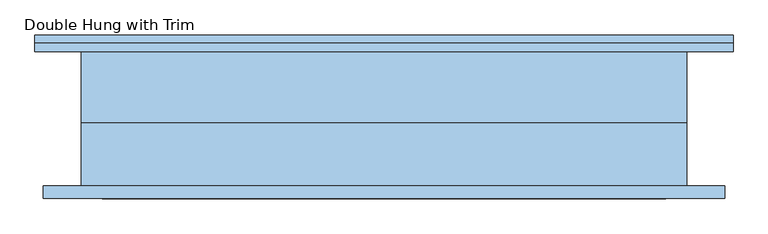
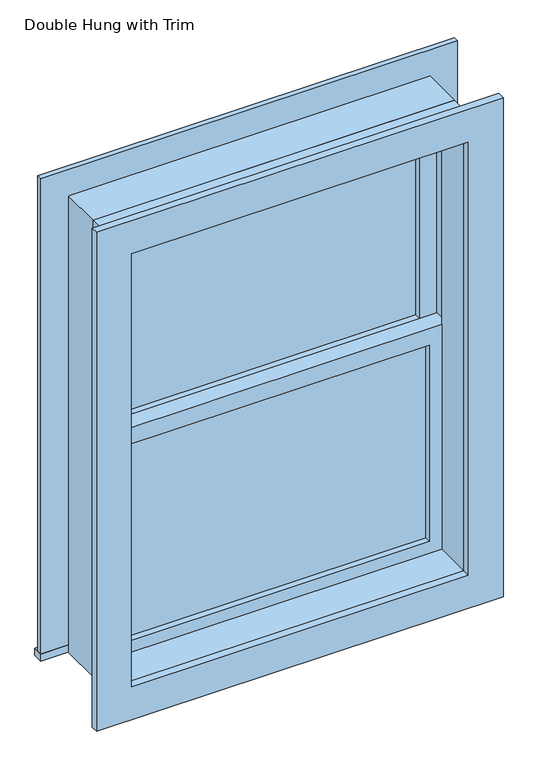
"""IFC4 building model written with IfcOpenShell, lengths in millimetres: window geometry."""

from ifc_helpers import new_model, si_unit, frame, origin, place, context, project, spatial, polyline, outline, extrude, source, transform, mapped, element, save


def double_hung_with_trim_31198920(model_context):
    return source(origin(), model_context, "Body", "SweptSolid", [
        extrude(outline(polyline([(-393.7, 22.225), (393.7, 22.225), (393.7, 9.525), (-393.7, 9.525), (-393.7, 22.225)])), frame((0.0, 0.0, 977.9), z_axis=(0.0, 0.0, 1.0), x_axis=(1.0, 0.0, 0.0)), (0.0, 0.0, 1.0), 523.875),
        extrude(outline(polyline([(1546.225, -438.15), (933.45, -438.15), (933.45, 438.15), (1546.225, 438.15), (1546.225, -438.15)]), holes=[polyline([(1501.775, -393.7), (1501.775, 393.7), (977.9, 393.7), (977.9, -393.7), (1501.775, -393.7)])]), frame((0.0, -6.35, 0.0), z_axis=(0.0, 1.0, 0.0), x_axis=(0.0, 0.0, 1.0)), (0.0, 0.0, 1.0), 44.45),
        extrude(outline(polyline([(-527.05, 127.0), (527.05, 127.0), (527.05, 101.6), (-527.05, 101.6), (-527.05, 127.0)])), frame((0.0, 0.0, 914.4), z_axis=(0.0, 0.0, 1.0), x_axis=(1.0, 0.0, 0.0)), (0.0, 0.0, 1.0), 19.05),
        extrude(outline(polyline([(2114.55, -438.15), (2114.55, 438.15), (933.45, 438.15), (933.45, 527.05), (2203.45, 527.05), (2203.45, -527.05), (933.45, -527.05), (933.45, -438.15), (2114.55, -438.15)])), frame((0.0, 101.6, 0.0), z_axis=(0.0, 1.0, 0.0), x_axis=(0.0, 0.0, 1.0)), (0.0, 0.0, 1.0), 12.7),
        extrude(outline(polyline([(2190.75, 514.35), (2190.75, -514.35), (857.25, -514.35), (857.25, 514.35), (2190.75, 514.35)]), holes=[polyline([(2101.85, 425.45), (946.15, 425.45), (946.15, -425.45), (2101.85, -425.45), (2101.85, 425.45)])]), frame((0.0, -120.65, 0.0), z_axis=(0.0, 1.0, 0.0), x_axis=(0.0, 0.0, 1.0)), (0.0, 0.0, 1.0), 19.05),
        extrude(outline(polyline([(393.7, 53.975), (-393.7, 53.975), (-393.7, 66.675), (393.7, 66.675), (393.7, 53.975)])), frame((0.0, 0.0, 1546.225), z_axis=(0.0, 0.0, 1.0), x_axis=(1.0, 0.0, 0.0)), (0.0, 0.0, 1.0), 523.875),
        extrude(outline(polyline([(2114.55, -438.15), (1501.775, -438.15), (1501.775, 438.15), (2114.55, 438.15), (2114.55, -438.15)]), holes=[polyline([(2070.1, -393.7), (2070.1, 393.7), (1546.225, 393.7), (1546.225, -393.7), (2070.1, -393.7)])]), frame((0.0, 38.1, 0.0), z_axis=(0.0, 1.0, 0.0), x_axis=(0.0, 0.0, 1.0)), (0.0, 0.0, 1.0), 44.45),
        extrude(outline(polyline([(2133.6, -457.2), (914.4, -457.2), (914.4, 457.2), (2133.6, 457.2), (2133.6, -457.2)]), holes=[polyline([(2101.85, -425.45), (2101.85, 425.45), (946.15, 425.45), (946.15, -425.45), (2101.85, -425.45)])]), frame((0.0, -101.6, 0.0), z_axis=(0.0, 1.0, 0.0), x_axis=(0.0, 0.0, 1.0)), (0.0, 0.0, 1.0), 95.25),
        extrude(outline(polyline([(2133.6, 457.2), (2133.6, -457.2), (914.4, -457.2), (914.4, 457.2), (2133.6, 457.2)]), holes=[polyline([(2114.55, 438.15), (933.45, 438.15), (933.45, -438.15), (2114.55, -438.15), (2114.55, 438.15)])]), frame((0.0, -6.35, 0.0), z_axis=(0.0, 1.0, 0.0), x_axis=(0.0, 0.0, 1.0)), (0.0, 0.0, 1.0), 107.95),
    ])


if __name__ == "__main__":
    model = new_model("IFC4")
    model_context = context("Model", 3, world=origin())
    ifc_project = project(units=[si_unit("LENGTHUNIT", "METRE", prefix="MILLI")], contexts=[model_context])
    site = spatial("IfcSite", under=ifc_project)
    building = spatial("IfcBuilding", under=site)
    placement = place(None, origin())
    double_hung_with_trim_shape = double_hung_with_trim_31198920(model_context)
    element("IfcWindow", 1, ObjectType="Double Hung with Trim : 36\"w x 48\"h", at=placement, inside=building, context=model_context, shape_type="MappedRepresentation", body=[
        mapped(double_hung_with_trim_shape, transform((0.0, 0.0, 0.0), x_axis=(1.0, 0.0, 0.0), y_axis=(0.0, 1.0, 0.0), z_axis=(0.0, 0.0, 1.0))),
    ])
    save(model, "model.ifc")
